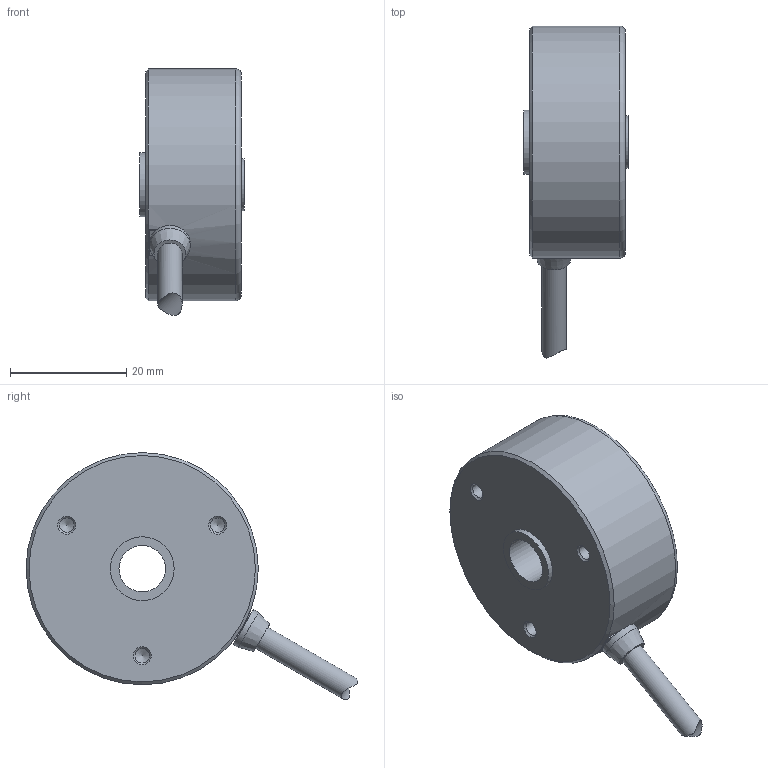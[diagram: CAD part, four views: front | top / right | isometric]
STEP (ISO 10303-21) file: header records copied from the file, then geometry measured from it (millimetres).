
FILE_DESCRIPTION(('STEP AP242'),'1');
FILE_NAME('.stp','2025-08-22T10:00:47',(' '),(' '),'Spatial InterOp 3D',' ',' ');
FILE_SCHEMA(('AP242_MANAGED_MODEL_BASED_3D_ENGINEERING_MIM_LF {1 0 10303 442 1 1 4}'));
Length unit declared in the file: millimetre
Products named in the file (1): L15L04 MAH-28-＊＊＊N1▽
Bounding box: 18 x 57.16 x 42.51 mm (x, y, z)
Volume: 20190.4 mm3; surface area: 5347.6 mm2
Topology: 1 solids, 1 shells, 34 faces, 69 edges, 41 vertices
Faces by surface type: cylinder 14, plane 11, cone 8, torus 1
Full cylindrical faces by diameter (mm): 2.5 x6, 4.2 x1, 7 x1, 8 x1, 9 x1, 11 x1, 40 x1
Entity records: 1208 total; most frequent: CARTESIAN_POINT 211, DIRECTION 142, ORIENTED_EDGE 88, AXIS2_PLACEMENT_3D 65, EDGE_LOOP 61, FACE_OUTER_BOUND 47, EDGE_CURVE 44, VERTEX_POINT 40
